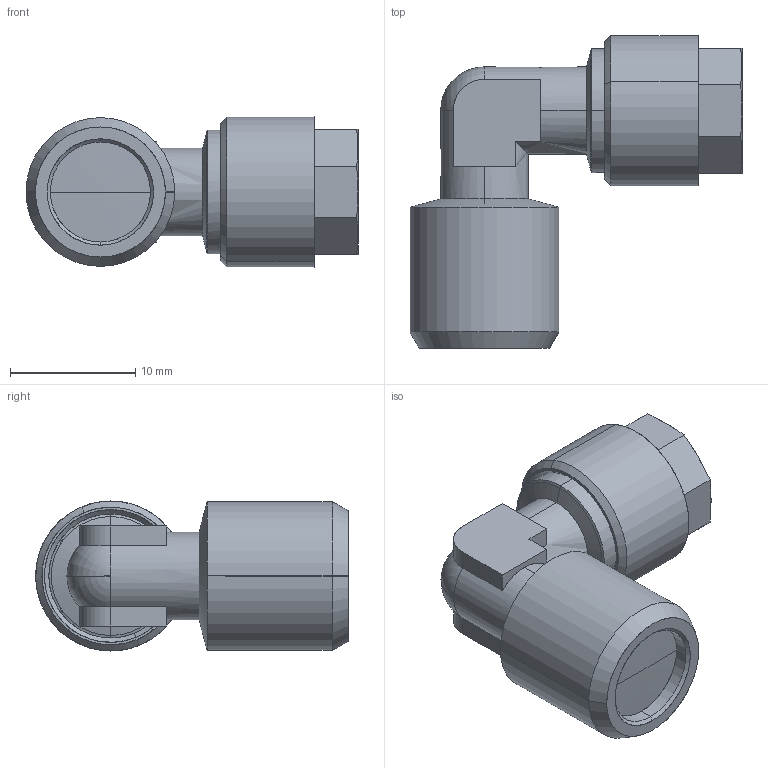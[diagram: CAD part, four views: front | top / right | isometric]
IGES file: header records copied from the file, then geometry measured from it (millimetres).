
Start section: SolidWorks IGES file using analytic representation for surfaces
Global section: file name: K:\Disegni Esecutivi\Serie 1000\Complessivi Serie 1000\1101\1101_iges\0110100001A.IGS; native system: SolidWorks 2008; preprocessor: SolidWorks 2008; author: cad05; date: 090205.134043; units: millimetre
Bounding box: 26.55 x 25 x 12 mm (x, y, z)
Surface area: 1636.3 mm2 (no closed solid volume)
Topology: 0 solids, 0 shells, 72 faces, 671 edges, 667 vertices
Faces by surface type: revolution 41, bspline 31
